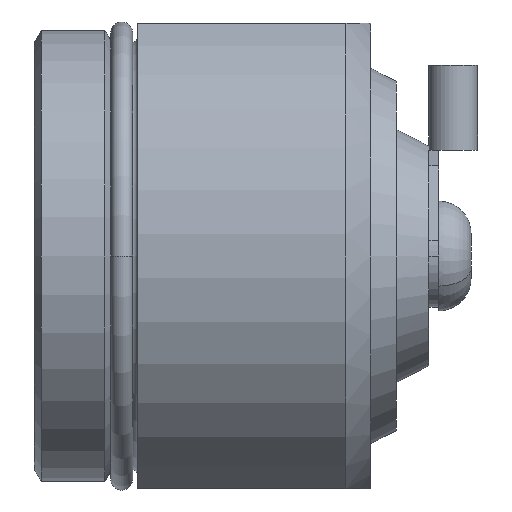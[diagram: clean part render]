
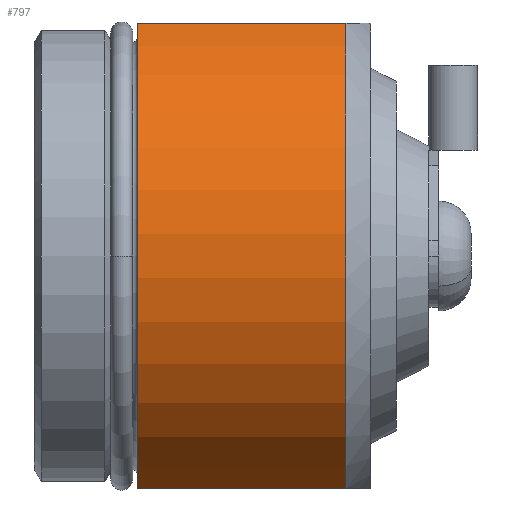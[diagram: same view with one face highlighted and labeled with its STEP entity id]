
A CAD part, left-side view. The second image highlights one B-rep face of the part: STEP entity #797.
In plain terms, the highlighted cylindrical face has radius 19.9 mm (diameter 39.8 mm), a partial arc.
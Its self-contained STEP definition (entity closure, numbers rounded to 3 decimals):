
#24 = CYLINDRICAL_SURFACE ( 'NONE', #1937, 19.9 ) ;
#85 = DIRECTION ( 'NONE',  ( 0., 1., 0. ) ) ;
#188 = ORIENTED_EDGE ( 'NONE', *, *, #344, .T. ) ;
#246 = ORIENTED_EDGE ( 'NONE', *, *, #485, .T. ) ;
#344 = EDGE_CURVE ( 'NONE', #1444, #1068, #1300, .T. ) ;
#348 = ORIENTED_EDGE ( 'NONE', *, *, #1707, .F. ) ;
#393 = AXIS2_PLACEMENT_3D ( 'NONE', #1679, #725, #1834 ) ;
#465 = CARTESIAN_POINT ( 'NONE',  ( 0., 22.5, 0. ) ) ;
#485 = EDGE_CURVE ( 'NONE', #1068, #1974, #1032, .T. ) ;
#513 = DIRECTION ( 'NONE',  ( 0., -1., 0. ) ) ;
#516 = DIRECTION ( 'NONE',  ( 0., -1., 0. ) ) ;
#563 = VERTEX_POINT ( 'NONE', #1765 ) ;
#630 = CARTESIAN_POINT ( 'NONE',  ( -8.486, 6.4, -18. ) ) ;
#696 = DIRECTION ( 'NONE',  ( 0., 0., -1. ) ) ;
#725 = DIRECTION ( 'NONE',  ( 0., -1., 0. ) ) ;
#797 = ADVANCED_FACE ( 'NONE', ( #1802 ), #24, .T. ) ;
#810 = DIRECTION ( 'NONE',  ( 0., -1., 0. ) ) ;
#870 = AXIS2_PLACEMENT_3D ( 'NONE', #465, #516, #696 ) ;
#1008 = CARTESIAN_POINT ( 'NONE',  ( 0., 14.45, 0. ) ) ;
#1032 = LINE ( 'NONE', #1882, #1457 ) ;
#1035 = EDGE_CURVE ( 'NONE', #563, #1444, #1438, .T. ) ;
#1068 = VERTEX_POINT ( 'NONE', #1875 ) ;
#1077 = CARTESIAN_POINT ( 'NONE',  ( -8.486, 14.45, 18. ) ) ;
#1209 = ORIENTED_EDGE ( 'NONE', *, *, #1035, .T. ) ;
#1300 = CIRCLE ( 'NONE', #870, 19.9 ) ;
#1438 = LINE ( 'NONE', #1077, #1706 ) ;
#1444 = VERTEX_POINT ( 'NONE', #2001 ) ;
#1457 = VECTOR ( 'NONE', #810, 1000. ) ;
#1679 = CARTESIAN_POINT ( 'NONE',  ( 0., 6.4, 0. ) ) ;
#1706 = VECTOR ( 'NONE', #85, 1000. ) ;
#1707 = EDGE_CURVE ( 'NONE', #563, #1974, #1874, .T. ) ;
#1765 = CARTESIAN_POINT ( 'NONE',  ( -8.486, 6.4, 18. ) ) ;
#1802 = FACE_OUTER_BOUND ( 'NONE', #1914, .T. ) ;
#1834 = DIRECTION ( 'NONE',  ( 0., 0., -1. ) ) ;
#1874 = CIRCLE ( 'NONE', #393, 19.9 ) ;
#1875 = CARTESIAN_POINT ( 'NONE',  ( -8.486, 22.5, -18. ) ) ;
#1882 = CARTESIAN_POINT ( 'NONE',  ( -8.486, 14.45, -18. ) ) ;
#1914 = EDGE_LOOP ( 'NONE', ( #246, #348, #1209, #188 ) ) ;
#1937 = AXIS2_PLACEMENT_3D ( 'NONE', #1008, #513, #1964 ) ;
#1964 = DIRECTION ( 'NONE',  ( 0., 0., -1. ) ) ;
#1974 = VERTEX_POINT ( 'NONE', #630 ) ;
#2001 = CARTESIAN_POINT ( 'NONE',  ( -8.486, 22.5, 18. ) ) ;
